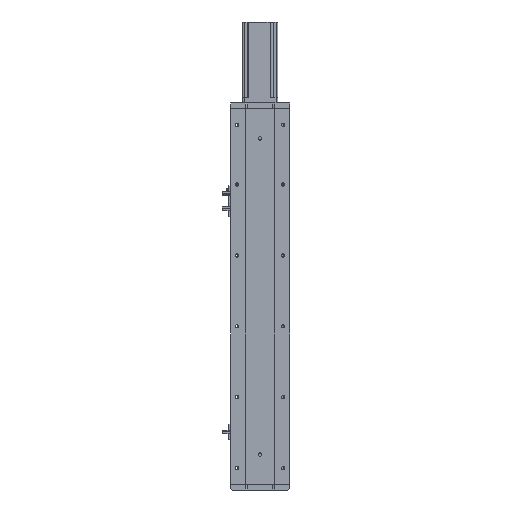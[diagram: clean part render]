
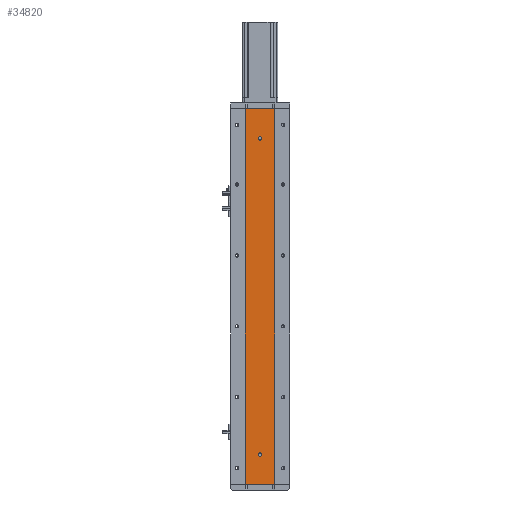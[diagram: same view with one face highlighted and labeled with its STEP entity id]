
A CAD part, left-side view. The second image highlights one B-rep face of the part: STEP entity #34820.
In plain terms, the highlighted planar face has unit normal (-1, 0, 0).
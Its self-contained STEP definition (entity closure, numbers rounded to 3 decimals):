
#59 = CARTESIAN_POINT ( 'NONE',  ( -18.926, 0., 588. ) ) ;
#239 = CARTESIAN_POINT ( 'NONE',  ( -18.926, 24.785, 635. ) ) ;
#379 = VERTEX_POINT ( 'NONE', #32283 ) ;
#874 = VECTOR ( 'NONE', #18332, 1000. ) ;
#912 = CARTESIAN_POINT ( 'NONE',  ( -18.926, 24.785, 635. ) ) ;
#1430 = DIRECTION ( 'NONE',  ( -1., 0., 0. ) ) ;
#1829 = LINE ( 'NONE', #912, #874 ) ;
#1941 = CARTESIAN_POINT ( 'NONE',  ( -18.926, -24.785, 635. ) ) ;
#1983 = DIRECTION ( 'NONE',  ( 0., 0., -1. ) ) ;
#2181 = ORIENTED_EDGE ( 'NONE', *, *, #29412, .F. ) ;
#2269 = EDGE_CURVE ( 'NONE', #6714, #10961, #30295, .T. ) ;
#2962 = AXIS2_PLACEMENT_3D ( 'NONE', #22109, #4822, #25018 ) ;
#4040 = AXIS2_PLACEMENT_3D ( 'NONE', #11273, #31440, #14200 ) ;
#4255 = VERTEX_POINT ( 'NONE', #23029 ) ;
#4822 = DIRECTION ( 'NONE',  ( -1., 0., 0. ) ) ;
#5184 = CIRCLE ( 'NONE', #2962, 3. ) ;
#5308 = ORIENTED_EDGE ( 'NONE', *, *, #26574, .F. ) ;
#5446 = VERTEX_POINT ( 'NONE', #239 ) ;
#5670 = VECTOR ( 'NONE', #12660, 1000. ) ;
#6578 = LINE ( 'NONE', #27059, #5670 ) ;
#6714 = VERTEX_POINT ( 'NONE', #21251 ) ;
#7103 = FACE_BOUND ( 'NONE', #26172, .T. ) ;
#7285 = VECTOR ( 'NONE', #1983, 1000. ) ;
#7551 = DIRECTION ( 'NONE',  ( -1., 0., 0. ) ) ;
#7704 = AXIS2_PLACEMENT_3D ( 'NONE', #24843, #7551, #27743 ) ;
#8728 = CARTESIAN_POINT ( 'NONE',  ( -18.926, 0., 47. ) ) ;
#8773 = ORIENTED_EDGE ( 'NONE', *, *, #2269, .F. ) ;
#10961 = VERTEX_POINT ( 'NONE', #15237 ) ;
#11273 = CARTESIAN_POINT ( 'NONE',  ( -18.926, 24.785, 635. ) ) ;
#12404 = DIRECTION ( 'NONE',  ( -1., 0., 0. ) ) ;
#12660 = DIRECTION ( 'NONE',  ( 0., -1., 0. ) ) ;
#14200 = DIRECTION ( 'NONE',  ( 0., 0., -1. ) ) ;
#14248 = ORIENTED_EDGE ( 'NONE', *, *, #17822, .T. ) ;
#14815 = FACE_BOUND ( 'NONE', #31679, .T. ) ;
#15161 = EDGE_CURVE ( 'NONE', #4255, #22317, #37416, .T. ) ;
#15237 = CARTESIAN_POINT ( 'NONE',  ( -18.926, -24.785, 0. ) ) ;
#17263 = EDGE_LOOP ( 'NONE', ( #33530, #8773, #24757, #14248 ) ) ;
#17377 = CARTESIAN_POINT ( 'NONE',  ( -18.926, 24.785, 0. ) ) ;
#17822 = EDGE_CURVE ( 'NONE', #5446, #26854, #1829, .T. ) ;
#18208 = CARTESIAN_POINT ( 'NONE',  ( -18.926, 24.785, 635. ) ) ;
#18332 = DIRECTION ( 'NONE',  ( 0., 0., -1. ) ) ;
#18820 = CARTESIAN_POINT ( 'NONE',  ( -18.926, 0., 585. ) ) ;
#19474 = EDGE_CURVE ( 'NONE', #5446, #6714, #26389, .T. ) ;
#21115 = DIRECTION ( 'NONE',  ( 0., -1., 0. ) ) ;
#21251 = CARTESIAN_POINT ( 'NONE',  ( -18.926, -24.785, 635. ) ) ;
#21715 = DIRECTION ( 'NONE',  ( 0., 0., 1. ) ) ;
#22109 = CARTESIAN_POINT ( 'NONE',  ( -18.926, 0., 50. ) ) ;
#22317 = VERTEX_POINT ( 'NONE', #59 ) ;
#22464 = FACE_OUTER_BOUND ( 'NONE', #17263, .T. ) ;
#23029 = CARTESIAN_POINT ( 'NONE',  ( -18.926, 0., 582. ) ) ;
#23895 = ORIENTED_EDGE ( 'NONE', *, *, #35302, .F. ) ;
#24757 = ORIENTED_EDGE ( 'NONE', *, *, #19474, .F. ) ;
#24843 = CARTESIAN_POINT ( 'NONE',  ( -18.926, 0., 585. ) ) ;
#25018 = DIRECTION ( 'NONE',  ( 0., 0., 1. ) ) ;
#25472 = VECTOR ( 'NONE', #21115, 1000. ) ;
#26172 = EDGE_LOOP ( 'NONE', ( #2181, #23895 ) ) ;
#26389 = LINE ( 'NONE', #18208, #25472 ) ;
#26574 = EDGE_CURVE ( 'NONE', #22317, #4255, #36309, .T. ) ;
#26854 = VERTEX_POINT ( 'NONE', #17377 ) ;
#27059 = CARTESIAN_POINT ( 'NONE',  ( -18.926, 24.785, 0. ) ) ;
#27743 = DIRECTION ( 'NONE',  ( 0., 0., 1. ) ) ;
#29412 = EDGE_CURVE ( 'NONE', #379, #35821, #5184, .T. ) ;
#29424 = AXIS2_PLACEMENT_3D ( 'NONE', #18820, #1430, #21715 ) ;
#29675 = CARTESIAN_POINT ( 'NONE',  ( -18.926, 0., 50. ) ) ;
#30295 = LINE ( 'NONE', #1941, #7285 ) ;
#31440 = DIRECTION ( 'NONE',  ( 1., 0., 0. ) ) ;
#31679 = EDGE_LOOP ( 'NONE', ( #5308, #31951 ) ) ;
#31951 = ORIENTED_EDGE ( 'NONE', *, *, #15161, .F. ) ;
#32283 = CARTESIAN_POINT ( 'NONE',  ( -18.926, 0., 53. ) ) ;
#32584 = DIRECTION ( 'NONE',  ( 0., 0., 1. ) ) ;
#33530 = ORIENTED_EDGE ( 'NONE', *, *, #34645, .T. ) ;
#34645 = EDGE_CURVE ( 'NONE', #26854, #10961, #6578, .T. ) ;
#34820 = ADVANCED_FACE ( 'NONE', ( #7103, #14815, #22464 ), #37011, .F. ) ;
#35302 = EDGE_CURVE ( 'NONE', #35821, #379, #35952, .T. ) ;
#35526 = AXIS2_PLACEMENT_3D ( 'NONE', #29675, #12404, #32584 ) ;
#35821 = VERTEX_POINT ( 'NONE', #8728 ) ;
#35952 = CIRCLE ( 'NONE', #35526, 3. ) ;
#36309 = CIRCLE ( 'NONE', #7704, 3. ) ;
#37011 = PLANE ( 'NONE',  #4040 ) ;
#37416 = CIRCLE ( 'NONE', #29424, 3. ) ;
